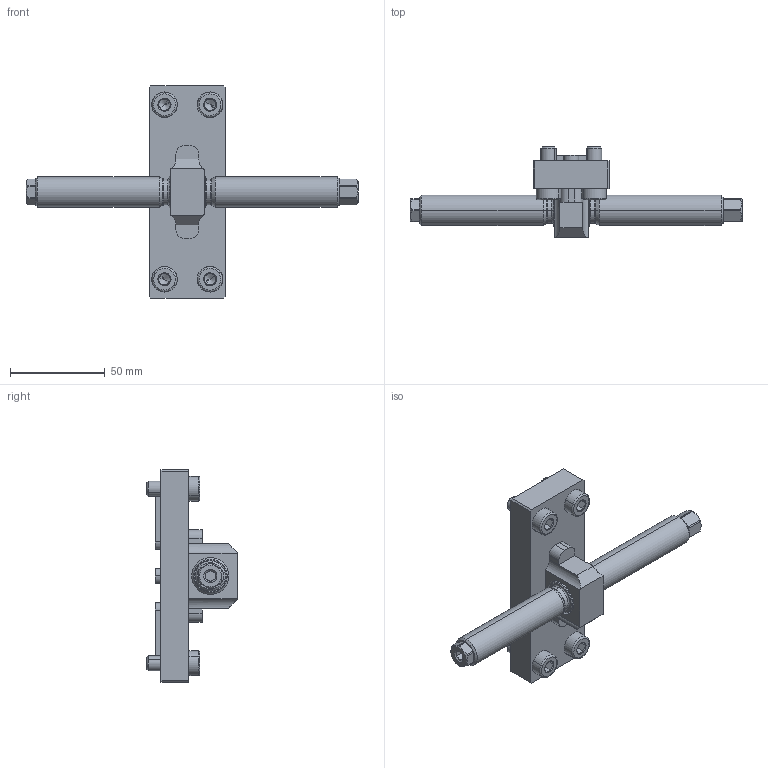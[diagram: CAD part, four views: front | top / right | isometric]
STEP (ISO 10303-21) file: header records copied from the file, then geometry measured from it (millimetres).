
FILE_DESCRIPTION (( 'STEP AP214' ), '1' );
FILE_NAME ('49080-TG.STEP', '2023-02-10T13:34:33', ( '' ), ( '' ), 'SwSTEP 2.0', 'SolidWorks 2021', '' );
FILE_SCHEMA (( 'AUTOMOTIVE_DESIGN' ));
Length unit declared in the file: millimetre
Products named in the file (1): 49080-TG
Bounding box: 175 x 47.7 x 112 mm (x, y, z)
Volume: 115474.4 mm3; surface area: 35707.8 mm2
Topology: 9 solids, 9 shells, 336 faces, 790 edges, 486 vertices
Faces by surface type: plane 142, cylinder 86, cone 76, bspline 24, torus 8
Entity records: 14482 total; most frequent: CARTESIAN_POINT 2993, DIRECTION 1642, ORIENTED_EDGE 1564, EDGE_CURVE 782, AXIS2_PLACEMENT_3D 619, VERTEX_POINT 486, LINE 404, VECTOR 404
